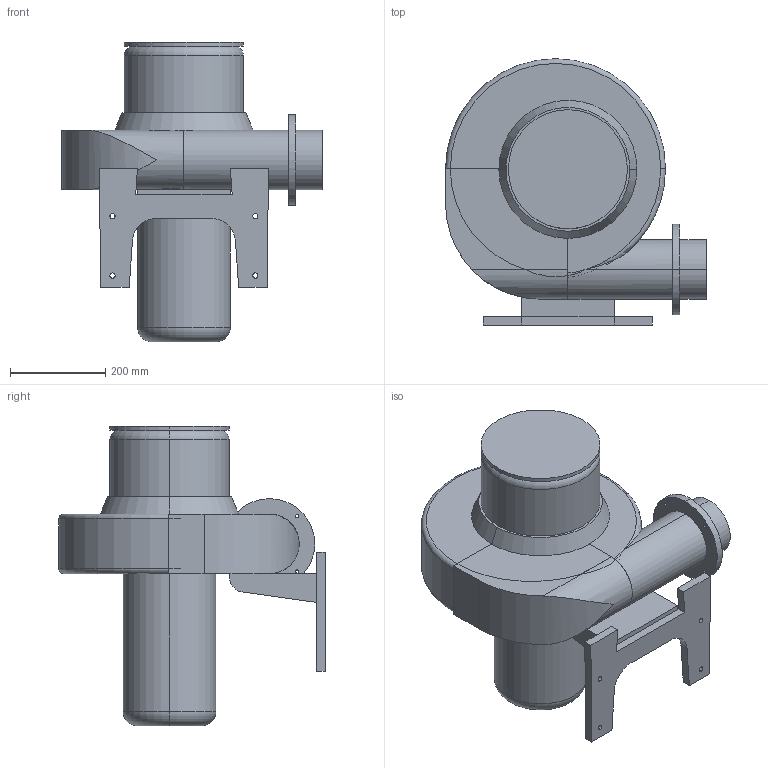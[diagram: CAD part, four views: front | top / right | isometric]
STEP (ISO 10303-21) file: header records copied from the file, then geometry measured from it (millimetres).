
FILE_DESCRIPTION (( 'STEP AP203' ), '1' );
FILE_NAME ('TB-2200.STEP', '2019-05-09T03:39:17', ( 'User' ), ( 'www.dadighost.com' ), 'SwSTEP 2.0', 'SolidWorks 2014', '' );
FILE_SCHEMA (( 'CONFIG_CONTROL_DESIGN' ));
Length unit declared in the file: millimetre
Products named in the file (1): TB-2200
Bounding box: 548 x 559.47 x 629 mm (x, y, z)
Volume: 50145024.1 mm3; surface area: 1525364.9 mm2
Topology: 4 solids, 4 shells, 93 faces, 223 edges, 143 vertices
Faces by surface type: cylinder 40, plane 39, torus 12, cone 2
Entity records: 3194 total; most frequent: CARTESIAN_POINT 861, DIRECTION 494, ORIENTED_EDGE 446, EDGE_CURVE 223, AXIS2_PLACEMENT_3D 195, VERTEX_POINT 143, EDGE_LOOP 116, LINE 104
